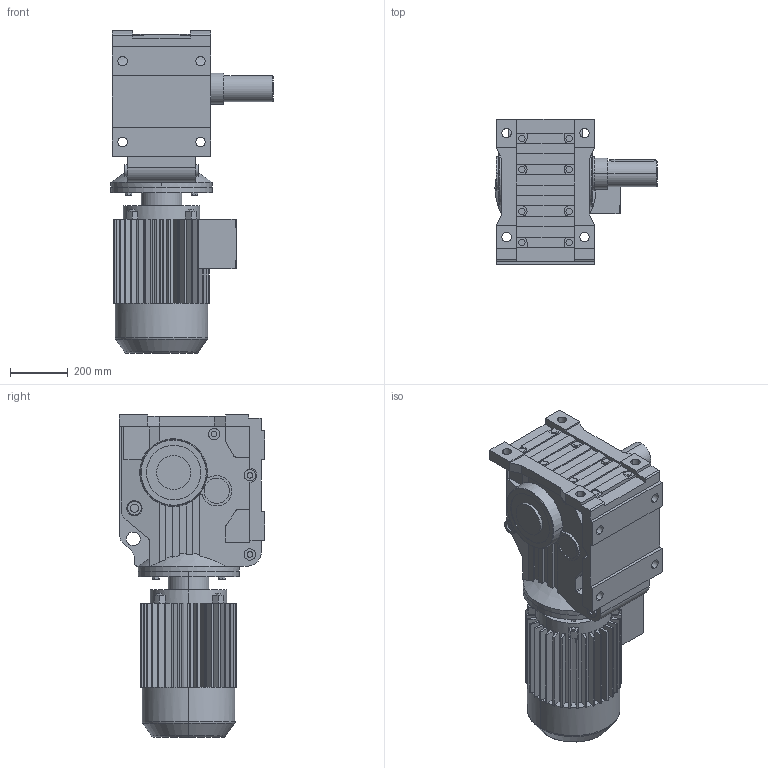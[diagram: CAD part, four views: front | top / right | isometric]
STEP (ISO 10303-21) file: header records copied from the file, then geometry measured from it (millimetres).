
FILE_DESCRIPTION(('Open CASCADE Model'),'2;1');
FILE_NAME('Open CASCADE Shape Model','2021-05-28T17:50:07',('Author'),( 'Open CASCADE'),'Open CASCADE STEP processor 6.3','Open CASCADE 6.3' ,'Unknown');
FILE_SCHEMA(('AUTOMOTIVE_DESIGN_CC2 { 1 2 10303 214 -1 1 5 4 }'));
Length unit declared in the file: millimetre
Products named in the file (4): 1_K107DV180-A; K37‵157_107.step; 萇儂_350-DV180-575-731-331-258.step; す瑩妗陑粣K_107.step
Assembly tree (3 placements, depth 2):
  1_K107DV180-A
    K37‵157_107.step
    萇儂_350-DV180-575-731-331-258.step
    す瑩妗陑粣K_107.step
Bounding box: 561 x 503 x 1116 mm (x, y, z)
Volume: 105189700.9 mm3; surface area: 3197115 mm2
Topology: 3 solids, 3 shells, 842 faces, 2218 edges, 1439 vertices
Faces by surface type: plane 587, cylinder 231, cone 16, torus 8
Entity records: 57957 total; most frequent: CARTESIAN_POINT 15788, DIRECTION 7274, ORIENTED_EDGE 4432, PCURVE 4432, DEFINITIONAL_REPRESENTATION 4432, LINE 3960, VECTOR 3960, EDGE_CURVE 2216
